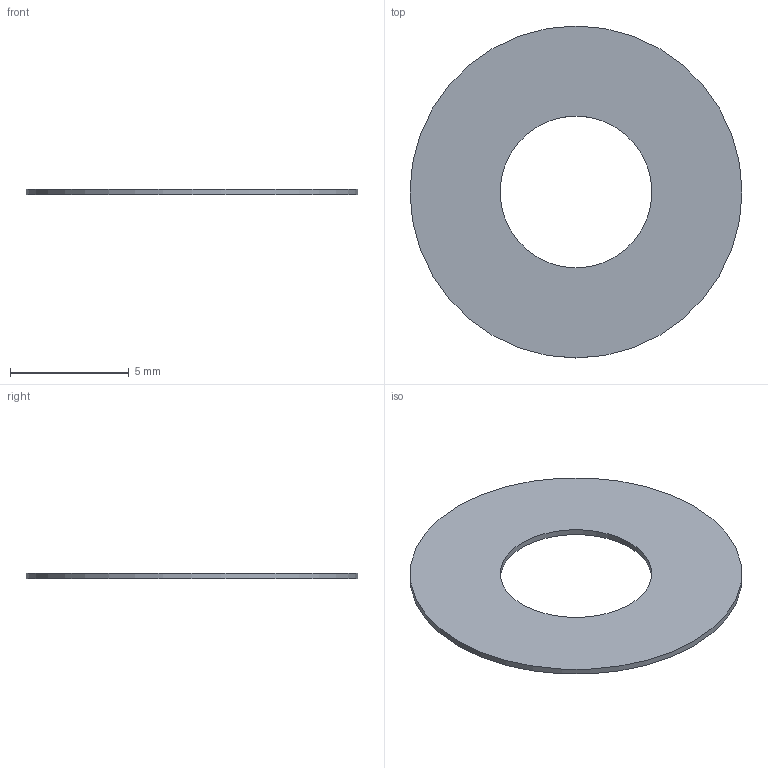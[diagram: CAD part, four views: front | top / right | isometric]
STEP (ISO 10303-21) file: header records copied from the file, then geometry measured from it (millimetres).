
FILE_DESCRIPTION(/* description */ ('RONDELLE MYLAR','CAx-IF Rec.Pracs.---Representation and Presentation of Product Manufacturing Information (PMI)---4.0---2014-10-13'),/* implementation_level */ '2;1');
FILE_NAME(/* name */ 'vv810009-A.stp',/* time_stamp */ '2025-09-29T10:10:30+02:00',/* author */ ('akrim'),/* organization */ (''),/* preprocessor_version */ 'ST-DEVELOPER v20',/* originating_system */ 'Autodesk Inventor 2025',/* authorisation */ '');
FILE_SCHEMA (('AP242_MANAGED_MODEL_BASED_3D_ENGINEERING_MIM_LF { 1 0 10303 442 1 1 4 }'));
Length unit declared in the file: millimetre
Products named in the file (1): VICTOR.V.81.00.09
Bounding box: 14 x 14 x 0.25 mm (x, y, z)
Volume: 30.4 mm3; surface area: 259.6 mm2
Topology: 1 solids, 1 shells, 4 faces, 6 edges, 4 vertices
Faces by surface type: cylinder 2, plane 2
Full cylindrical faces by diameter (mm): 6.4 x1, 14 x1
Entity records: 204 total; most frequent: DIRECTION 32, CARTESIAN_POINT 23, AXIS2_PLACEMENT_3D 15, ORIENTED_EDGE 12, STYLED_ITEM 6, EDGE_LOOP 6, CIRCLE 6, EDGE_CURVE 6
